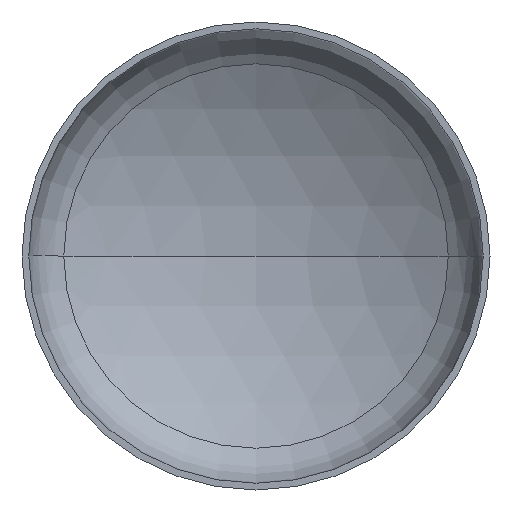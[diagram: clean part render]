
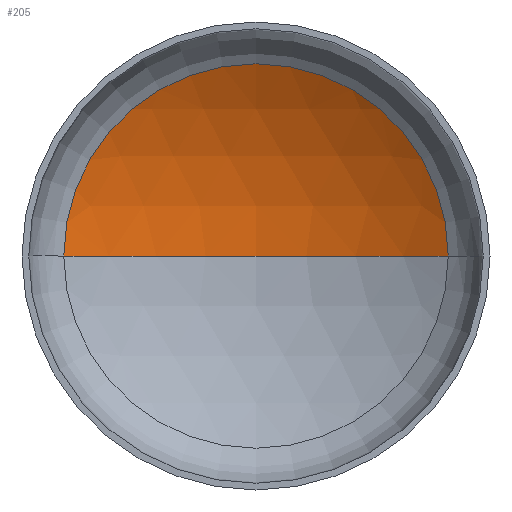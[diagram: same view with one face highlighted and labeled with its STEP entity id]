
A CAD part, front view. The second image highlights one B-rep face of the part: STEP entity #205.
In plain terms, the highlighted spherical face has radius 4400 mm.
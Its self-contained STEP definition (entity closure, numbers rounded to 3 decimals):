
#15 = ORIENTED_EDGE ( 'NONE', *, *, #169, .T. ) ;
#22 = DIRECTION ( 'NONE',  ( 0., 0., -1. ) ) ;
#25 = ORIENTED_EDGE ( 'NONE', *, *, #188, .T. ) ;
#54 = CARTESIAN_POINT ( 'NONE',  ( 0., -2930.803, 0. ) ) ;
#59 = ORIENTED_EDGE ( 'NONE', *, *, #319, .F. ) ;
#62 = CARTESIAN_POINT ( 'NONE',  ( 0., -2930.803, 0. ) ) ;
#64 = VERTEX_POINT ( 'NONE', #243 ) ;
#75 = VERTEX_POINT ( 'NONE', #231 ) ;
#92 = VERTEX_POINT ( 'NONE', #273 ) ;
#105 = EDGE_LOOP ( 'NONE', ( #59, #25, #15 ) ) ;
#116 = SPHERICAL_SURFACE ( 'NONE', #287, 4400. ) ;
#123 = AXIS2_PLACEMENT_3D ( 'NONE', #299, #339, #349 ) ;
#124 = DIRECTION ( 'NONE',  ( 1., 0., 0. ) ) ;
#148 = DIRECTION ( 'NONE',  ( -1., 0., 0. ) ) ;
#169 = EDGE_CURVE ( 'NONE', #64, #92, #404, .T. ) ;
#184 = CARTESIAN_POINT ( 'NONE',  ( 0., -2930.803, 0. ) ) ;
#188 = EDGE_CURVE ( 'NONE', #75, #64, #284, .T. ) ;
#201 = DIRECTION ( 'NONE',  ( -1., 0., 0. ) ) ;
#205 = ADVANCED_FACE ( 'NONE', ( #210 ), #116, .F. ) ;
#210 = FACE_OUTER_BOUND ( 'NONE', #105, .T. ) ;
#226 = AXIS2_PLACEMENT_3D ( 'NONE', #184, #247, #201 ) ;
#231 = CARTESIAN_POINT ( 'NONE',  ( 0., 1469.197, 0. ) ) ;
#243 = CARTESIAN_POINT ( 'NONE',  ( 2258.79, 845.156, 0. ) ) ;
#247 = DIRECTION ( 'NONE',  ( 0., 0., -1. ) ) ;
#273 = CARTESIAN_POINT ( 'NONE',  ( -2258.79, 845.156, 0. ) ) ;
#284 = CIRCLE ( 'NONE', #226, 4400. ) ;
#287 = AXIS2_PLACEMENT_3D ( 'NONE', #54, #22, #148 ) ;
#299 = CARTESIAN_POINT ( 'NONE',  ( 0., 845.156, 0. ) ) ;
#302 = DIRECTION ( 'NONE',  ( 0., 0., 1. ) ) ;
#319 = EDGE_CURVE ( 'NONE', #75, #92, #376, .T. ) ;
#339 = DIRECTION ( 'NONE',  ( 0., -1., 0. ) ) ;
#349 = DIRECTION ( 'NONE',  ( 1., 0., 0. ) ) ;
#376 = CIRCLE ( 'NONE', #401, 4400. ) ;
#401 = AXIS2_PLACEMENT_3D ( 'NONE', #62, #302, #124 ) ;
#404 = CIRCLE ( 'NONE', #123, 2258.79 ) ;
